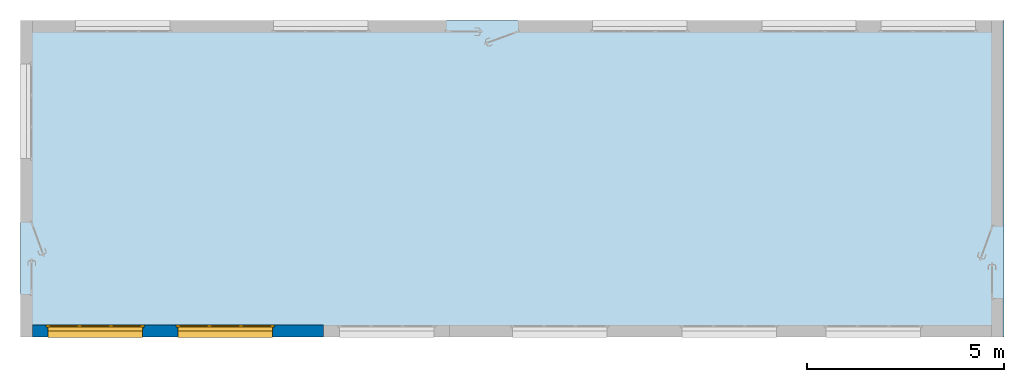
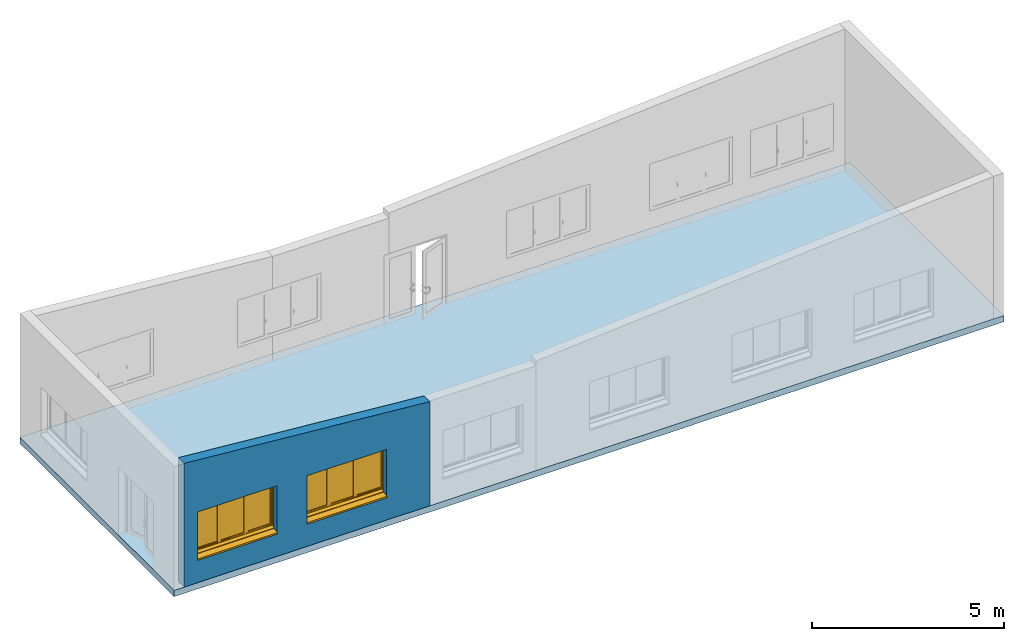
# One storey, part 1 of 8: 2 windows, 1 slab, 1 wall, 2 openings.
"""IFC2X3 building model written with IfcOpenShell, lengths in metres."""

from ifc_helpers import new_model, entity, si_unit, converted_unit, derived_unit, direction, frame, frame_2d, origin, place, context, subcontext, project, spatial, polyline, rectangle, outline, extrude, clip, bounded_halfspace, faceted_brep, source, transform, mapped, material, material_list, layer, layer_set, layer_usage, type_object, type_shapes, element, fill, save


model = new_model("IFC2X3")

# Units and contexts
model_context = context("Model", 3, precision=1e-05, world=origin(), true_north=direction((6.12303176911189e-17, 1.0)))
body_context = subcontext(model_context, "Body", "Model", "MODEL_VIEW")
ifc_project = project(units=[si_unit("LENGTHUNIT", "METRE"), si_unit("AREAUNIT", "SQUARE_METRE"), si_unit("VOLUMEUNIT", "CUBIC_METRE"), converted_unit("PLANEANGLEUNIT", "DEGREE", entity("IfcRatioMeasure", 0.0174532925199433), si_unit("PLANEANGLEUNIT", "RADIAN"), dimensions=[0, 0, 0, 0, 0, 0, 0]), si_unit("MASSUNIT", "GRAM", prefix="KILO"), derived_unit("MASSDENSITYUNIT", [(si_unit("MASSUNIT", "GRAM", prefix="KILO"), 1), (si_unit("LENGTHUNIT", "METRE"), -3)]), si_unit("TIMEUNIT", "SECOND"), si_unit("FREQUENCYUNIT", "HERTZ"), si_unit("THERMODYNAMICTEMPERATUREUNIT", "DEGREE_CELSIUS"), derived_unit("THERMALTRANSMITTANCEUNIT", [(si_unit("MASSUNIT", "GRAM", prefix="KILO"), 1), (si_unit("THERMODYNAMICTEMPERATUREUNIT", "KELVIN"), -1), (si_unit("TIMEUNIT", "SECOND"), -3)]), derived_unit("VOLUMETRICFLOWRATEUNIT", [(si_unit("LENGTHUNIT", "METRE"), 3), (si_unit("TIMEUNIT", "SECOND"), -1)]), si_unit("ELECTRICCURRENTUNIT", "AMPERE"), si_unit("ELECTRICVOLTAGEUNIT", "VOLT"), si_unit("POWERUNIT", "WATT"), si_unit("FORCEUNIT", "NEWTON", prefix="KILO"), si_unit("ILLUMINANCEUNIT", "LUX"), si_unit("LUMINOUSFLUXUNIT", "LUMEN"), si_unit("LUMINOUSINTENSITYUNIT", "CANDELA"), derived_unit("USERDEFINED", [(si_unit("MASSUNIT", "GRAM", prefix="KILO"), -1), (si_unit("LENGTHUNIT", "METRE"), -2), (si_unit("TIMEUNIT", "SECOND"), 3), (si_unit("LUMINOUSFLUXUNIT", "LUMEN"), 1)]), derived_unit("LINEARVELOCITYUNIT", [(si_unit("LENGTHUNIT", "METRE"), 1), (si_unit("TIMEUNIT", "SECOND"), -1)]), si_unit("PRESSUREUNIT", "PASCAL"), derived_unit("USERDEFINED", [(si_unit("LENGTHUNIT", "METRE"), -2), (si_unit("MASSUNIT", "GRAM", prefix="KILO"), 1), (si_unit("TIMEUNIT", "SECOND"), -2)])], contexts=[model_context])

# Site, building, storey
site_placement = place(None, origin())
site = spatial("IfcSite", under=ifc_project, at=site_placement, Name="Default", CompositionType="ELEMENT")
building_placement = place(site_placement, origin())
building = spatial("IfcBuilding", under=site, at=building_placement, CompositionType="ELEMENT")
storey_placement = place(building_placement, frame((0.0, 0.0, 3.3)))
storey = spatial("IfcBuildingStorey", under=building, at=storey_placement, Name="Niveau 1", CompositionType="ELEMENT", Elevation=3.3)

# Slab
ifc_material_1 = material(Name="Maçonnerie - Béton")
ifc_layer_1 = layer(ifc_material_1, 0.2)
ifc_layer_set_1 = layer_set([ifc_layer_1], Name="Sol:Dalle en béton - 200")
ifc_layer_usage_1 = layer_usage(ifc_layer_set_1, "AXIS3", "POSITIVE", 0.0)
slab_placement = place(storey_placement, origin())
element("IfcSlab", 1, at=slab_placement, inside=storey, material=ifc_layer_usage_1, Name="Sol:Dalle en béton - 200", ObjectType="Sol:Dalle en béton - 200", PredefinedType="FLOOR", context=body_context, shape_type="SweptSolid", body=[
    extrude(outline(polyline([(-2.68166666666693, -13.5496519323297), (5.35833333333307, -13.5496519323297), (5.35833333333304, 11.4347994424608), (-2.67666666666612, 11.4347994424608), (-2.67666666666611, 2.11485248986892), (-2.68166666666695, 2.11485248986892), (-2.68166666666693, -13.5496519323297)])), frame((1.16568614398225, -2.34921474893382, 0.0), z_axis=(0.0, 0.0, -1.0), x_axis=(0.0, 1.0, 0.0)), (0.0, 0.0, 1.0), 0.2),
])

# Wall, openings, windows
ifc_material_2 = material(Name="Maçonnerie - Voile BA")
ifc_layer_2 = layer(ifc_material_2, 0.18)
ifc_material_3 = material(Name="Maçonnerie - Isolant")
ifc_layer_3 = layer(ifc_material_3, 0.12)
ifc_layer_set_2 = layer_set([ifc_layer_2, ifc_layer_3], Name="Mur de base:Ext. Voile BA 18 + Isolant 12")
ifc_layer_usage_2 = layer_usage(ifc_layer_set_2, "AXIS2", "NEGATIVE", 0.15)
wall_type = type_object("IfcWallType", Name="Mur de base:Ext. Voile BA 18 + Isolant 12", PredefinedType="STANDARD", material=ifc_layer_set_2)
wall_placement = place(storey_placement, frame((-4.68534366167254, -4.88088141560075, 0.0), z_axis=(0.0, 0.0, 1.0), x_axis=(-1.0, 0.0, 0.0)))
wall = element("IfcWallStandardCase", 2, at=wall_placement, inside=storey, type_object=wall_type, material=ifc_layer_usage_2, Name="Mur de base:Ext. Voile BA 18 + Isolant 12", ObjectType="Mur de base:Ext. Voile BA 18 + Isolant 12", context=body_context, shape_type="Clipping", body=[
    clip(extrude(rectangle(XDim=7.39862212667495, YDim=0.299999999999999, at=frame_2d((3.69931106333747, 1.2490009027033e-16), x_axis=(-1.0, 0.0))), origin(), (0.0, 0.0, 1.0), 3.94), bounded_halfspace(frame((0.0, -0.15, 3.31535994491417), z_axis=(-0.084127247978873, 0.0, 0.996455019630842), x_axis=(0.996455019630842, 0.0, 0.084127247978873)), False, frame((0.0, -0.15, 3.31535994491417)), polyline([(0.0, 0.0), (0.1734058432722, 0.0), (7.39862212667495, 0.0), (7.39862212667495, 0.299999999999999), (0.0, 0.299999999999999), (0.0, 0.00269999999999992), (0.0, 0.0)]))),
])
opening_1_placement = place(wall_placement, frame((7.04862212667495, 0.499999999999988, 0.720000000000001), z_axis=(0.0, 0.0, 1.0), x_axis=(-1.0, 0.0, 0.0)))
opening_1 = element("IfcOpeningElement", 3, at=opening_1_placement, cuts=wall, Name="Mur de base:Ext. Voile BA 18 + Isolant 12", ObjectType="Opening", context=body_context, shape_type="Brep", body=[
    faceted_brep([(2.45, 0.57000000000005, 0.0800000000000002), (2.45, 0.549999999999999, 0.0800000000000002), (2.45, 0.549999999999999, 1.53), (2.45, 0.0, 1.53), (2.45, 0.0, 0.0), (2.45, 0.57000000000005, 0.0), (0.0500000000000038, 1.0, 0.0800000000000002), (0.0500000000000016, 0.650000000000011, 0.0800000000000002), (0.0500000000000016, 0.650000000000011, 1.53), (0.0500000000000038, 1.0, 1.53), (2.45, 1.0, 0.0800000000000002), (2.45, 0.650000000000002, 0.0800000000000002), (2.5, 0.650000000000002, 0.0800000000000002), (2.5, 0.600000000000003, 0.0800000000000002), (2.46, 0.600000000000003, 0.0800000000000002), (2.46, 0.549999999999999, 0.0800000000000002), (0.0500000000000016, 0.570000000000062, 0.0800000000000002), (0.0500000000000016, 0.550000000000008, 0.0800000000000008), (0.0399999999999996, 0.550000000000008, 0.0800000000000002), (0.0399999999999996, 0.600000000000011, 0.0800000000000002), (0.0, 0.600000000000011, 0.0800000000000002), (0.0, 0.65000000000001, 0.0800000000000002), (2.45, 1.0, 1.53), (0.0500000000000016, 0.550000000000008, 1.53), (0.0499999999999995, 0.0, 1.53), (0.0499999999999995, 0.0, 0.0), (0.0500000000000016, 0.570000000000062, 0.0), (2.5, 0.650000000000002, 1.58), (2.5, 0.600000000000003, 1.58), (0.0, 0.600000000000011, 1.58), (0.0399999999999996, 0.600000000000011, 1.54), (2.46, 0.600000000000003, 1.54), (2.46, 0.549999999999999, 1.54), (0.0399999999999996, 0.550000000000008, 1.54), (2.45, 0.650000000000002, 1.53), (0.0, 0.650000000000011, 1.58)], [[[0, 1, 2, 3, 4, 5]], [[6, 7, 8, 9]], [[10, 11, 12, 13, 14, 15, 1, 0, 16, 17, 18, 19, 20, 21, 7, 6]], [[10, 6, 9, 22]], [[3, 2, 23, 24]], [[3, 24, 25, 4]], [[4, 25, 26, 5]], [[5, 26, 16, 0]], [[12, 27, 28, 13]], [[13, 28, 29, 20, 19, 30, 31, 14]], [[14, 31, 32, 15]], [[15, 32, 33, 18, 17, 23, 2, 1]], [[11, 34, 8, 7, 21, 35, 27, 12]], [[27, 35, 29, 28]], [[30, 33, 32, 31]], [[29, 35, 21, 20]], [[19, 18, 33, 30]], [[9, 8, 34, 22]], [[24, 23, 17, 16, 26, 25]], [[22, 34, 11, 10]]]),
])
opening_2_placement = place(wall_placement, frame((3.75, 0.499999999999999, 0.720000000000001), z_axis=(0.0, 0.0, 1.0), x_axis=(-1.0, 0.0, 0.0)))
opening_2 = element("IfcOpeningElement", 4, at=opening_2_placement, cuts=wall, Name="Mur de base:Ext. Voile BA 18 + Isolant 12", ObjectType="Opening", context=body_context, shape_type="Brep", body=[
    faceted_brep([(2.45, 0.57000000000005, 0.0800000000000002), (2.45, 0.549999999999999, 0.0800000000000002), (2.45, 0.549999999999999, 1.53), (2.45, 0.0, 1.53), (2.45, 0.0, 0.0), (2.45, 0.57000000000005, 0.0), (0.0500000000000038, 1.0, 0.0800000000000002), (0.0500000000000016, 0.650000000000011, 0.0800000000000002), (0.0500000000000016, 0.650000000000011, 1.53), (0.0500000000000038, 1.0, 1.53), (2.45, 1.0, 0.0800000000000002), (2.45, 0.650000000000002, 0.0800000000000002), (2.5, 0.650000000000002, 0.0800000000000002), (2.5, 0.600000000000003, 0.0800000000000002), (2.46, 0.600000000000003, 0.0800000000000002), (2.46, 0.549999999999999, 0.0800000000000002), (0.0500000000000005, 0.570000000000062, 0.0800000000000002), (0.0500000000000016, 0.550000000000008, 0.0800000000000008), (0.0399999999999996, 0.550000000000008, 0.0800000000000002), (0.0399999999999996, 0.600000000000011, 0.0800000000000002), (0.0, 0.600000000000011, 0.0800000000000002), (0.0, 0.65000000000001, 0.0800000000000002), (2.45, 1.0, 1.53), (0.0500000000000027, 0.550000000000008, 1.53), (0.0499999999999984, 0.0, 1.53), (0.0499999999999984, 0.0, 0.0), (0.0500000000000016, 0.570000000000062, 0.0), (2.5, 0.650000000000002, 1.58), (2.5, 0.600000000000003, 1.58), (0.0, 0.600000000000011, 1.58), (0.0400000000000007, 0.600000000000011, 1.54), (2.46, 0.600000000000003, 1.54), (2.46, 0.549999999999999, 1.54), (0.0399999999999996, 0.550000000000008, 1.54), (2.45, 0.650000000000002, 1.53), (0.0, 0.650000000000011, 1.58)], [[[0, 1, 2, 3, 4, 5]], [[6, 7, 8, 9]], [[10, 11, 12, 13, 14, 15, 1, 0, 16, 17, 18, 19, 20, 21, 7, 6]], [[10, 6, 9, 22]], [[3, 2, 23, 24]], [[3, 24, 25, 4]], [[4, 25, 26, 5]], [[5, 26, 16, 0]], [[12, 27, 28, 13]], [[13, 28, 29, 20, 19, 30, 31, 14]], [[14, 31, 32, 15]], [[15, 32, 33, 18, 17, 23, 2, 1]], [[11, 34, 8, 7, 21, 35, 27, 12]], [[27, 35, 29, 28]], [[30, 33, 32, 31]], [[29, 35, 21, 20]], [[19, 18, 33, 30]], [[9, 8, 34, 22]], [[24, 23, 17, 16, 26, 25]], [[22, 34, 11, 10]]]),
])
ifc_material_4 = material(Name="Fenêtre - Poignée")
ifc_material_5 = material(Name="Fenêtre - Appui")
ifc_material_6 = material(Name="Fenêtre - Cadre")
ifc_material_7 = material(Name="Fenêtre - Vitrage")
ifc_material_list_1 = material_list([ifc_material_4, ifc_material_5, ifc_material_6, ifc_material_7])
ifc_material_list_2 = material_list([ifc_material_4, ifc_material_5, ifc_material_6, ifc_material_7])
window_style = type_object("IfcWindowStyle", Name="2.40m x 1.45m - Appui Béton", ConstructionType="NOTDEFINED", OperationType="TRIPLE_PANEL_VERTICAL", ParameterTakesPrecedence=False, Sizeable=False, material=ifc_material_list_2)
shared_shape = source(origin(), body_context, "Body", "Brep", [
    faceted_brep([(0.83064600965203, -0.656000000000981, 0.702033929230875), (0.83203392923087, -0.656000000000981, 0.700646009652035), (0.83203392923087, -0.656000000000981, 0.68933230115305), (0.830667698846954, -0.656000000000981, 0.687966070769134), (0.819332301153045, -0.656000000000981, 0.687966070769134), (0.817966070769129, -0.656000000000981, 0.68933230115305), (0.817966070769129, -0.656000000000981, 0.700646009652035), (0.819353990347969, -0.656000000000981, 0.702033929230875), (0.83064600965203, -0.66891354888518, 0.702033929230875), (0.83203392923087, -0.668338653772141, 0.700646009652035), (0.83203392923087, -0.681646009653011, 0.687338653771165), (0.83203392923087, -0.681646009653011, 0.600000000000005), (0.83203392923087, -0.670332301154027, 0.600000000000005), (0.83203392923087, -0.670332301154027, 0.68265236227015), (0.83203392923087, -0.663652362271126, 0.68933230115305), (0.830667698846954, -0.663086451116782, 0.687966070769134), (0.819332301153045, -0.663086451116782, 0.687966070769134), (0.817966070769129, -0.663652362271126, 0.68933230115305), (0.817966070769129, -0.670332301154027, 0.68265236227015), (0.817966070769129, -0.670332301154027, 0.600000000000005), (0.817966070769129, -0.681646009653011, 0.600000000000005), (0.817966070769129, -0.681646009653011, 0.687338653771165), (0.817966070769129, -0.668338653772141, 0.700646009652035), (0.81935399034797, -0.66891354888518, 0.702033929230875), (0.83064600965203, -0.683033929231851, 0.687913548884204), (0.830667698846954, -0.668966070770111, 0.682086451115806), (0.819332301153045, -0.668966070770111, 0.682086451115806), (0.819353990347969, -0.683033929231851, 0.687913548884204), (0.83064600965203, -0.683033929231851, 0.600000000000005), (0.819353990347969, -0.683033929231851, 0.600000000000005), (0.819332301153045, -0.668966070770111, 0.600000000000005), (0.830667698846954, -0.668966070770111, 0.600000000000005)], [[[0, 1, 2, 3, 4, 5, 6, 7]], [[1, 0, 8, 9]], [[2, 1, 9, 10, 11, 12, 13, 14]], [[3, 2, 14, 15]], [[4, 3, 15, 16]], [[5, 4, 16, 17]], [[6, 5, 17, 18, 19, 20, 21, 22]], [[7, 6, 22, 23]], [[0, 7, 23, 8]], [[9, 8, 24, 10]], [[15, 14, 13, 25]], [[16, 15, 25, 26]], [[17, 16, 26, 18]], [[23, 22, 21, 27]], [[8, 23, 27, 24]], [[28, 29, 20, 19, 30, 31, 12, 11]], [[10, 24, 28, 11]], [[25, 13, 12, 31]], [[26, 25, 31, 30]], [[18, 26, 30, 19]], [[27, 21, 20, 29]], [[24, 27, 29, 28]]]),
    faceted_brep([(0.832000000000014, -0.656000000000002, 0.720000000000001), (0.817999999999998, -0.656000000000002, 0.720000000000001), (0.812999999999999, -0.656000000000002, 0.715000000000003), (0.812999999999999, -0.656000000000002, 0.644999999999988), (0.817999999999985, -0.656000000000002, 0.640000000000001), (0.832000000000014, -0.656000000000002, 0.640000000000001), (0.837, -0.656000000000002, 0.644999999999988), (0.837, -0.656000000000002, 0.715000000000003), (0.832000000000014, -0.650000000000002, 0.720000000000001), (0.837, -0.650000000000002, 0.715000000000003), (0.837, -0.650000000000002, 0.644999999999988), (0.832000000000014, -0.650000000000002, 0.640000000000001), (0.817999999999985, -0.650000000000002, 0.640000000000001), (0.812999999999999, -0.650000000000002, 0.644999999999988), (0.812999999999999, -0.650000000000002, 0.715000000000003), (0.817999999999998, -0.650000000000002, 0.720000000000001)], [[[0, 1, 2, 3, 4, 5, 6, 7]], [[8, 9, 10, 11, 12, 13, 14, 15]], [[1, 0, 8, 15]], [[2, 1, 15, 14]], [[3, 2, 14, 13]], [[4, 3, 13, 12]], [[5, 4, 12, 11]], [[6, 5, 11, 10]], [[7, 6, 10, 9]], [[0, 7, 9, 8]]]),
    faceted_brep([(1.68064600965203, -0.656000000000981, 0.702033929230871), (1.68203392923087, -0.656000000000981, 0.700646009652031), (1.68203392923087, -0.656000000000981, 0.689332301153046), (1.68066769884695, -0.656000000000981, 0.68796607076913), (1.66933230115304, -0.656000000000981, 0.68796607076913), (1.66796607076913, -0.656000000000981, 0.689332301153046), (1.66796607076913, -0.656000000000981, 0.700646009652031), (1.66935399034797, -0.656000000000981, 0.702033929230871), (1.68064600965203, -0.66891354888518, 0.702033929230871), (1.68203392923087, -0.668338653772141, 0.700646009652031), (1.68203392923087, -0.681646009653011, 0.687338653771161), (1.68203392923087, -0.681646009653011, 0.600000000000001), (1.68203392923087, -0.670332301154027, 0.600000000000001), (1.68203392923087, -0.670332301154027, 0.682652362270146), (1.68203392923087, -0.663652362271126, 0.689332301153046), (1.68066769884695, -0.663086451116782, 0.68796607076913), (1.66933230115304, -0.663086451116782, 0.68796607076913), (1.66796607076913, -0.663652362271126, 0.689332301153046), (1.66796607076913, -0.670332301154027, 0.682652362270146), (1.66796607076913, -0.670332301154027, 0.600000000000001), (1.66796607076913, -0.681646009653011, 0.600000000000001), (1.66796607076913, -0.681646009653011, 0.687338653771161), (1.66796607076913, -0.668338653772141, 0.700646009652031), (1.66935399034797, -0.66891354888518, 0.702033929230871), (1.68064600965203, -0.683033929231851, 0.6879135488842), (1.68066769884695, -0.668966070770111, 0.682086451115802), (1.66933230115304, -0.668966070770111, 0.682086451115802), (1.66935399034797, -0.683033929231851, 0.6879135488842), (1.68064600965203, -0.683033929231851, 0.600000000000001), (1.66935399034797, -0.683033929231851, 0.600000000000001), (1.66933230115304, -0.668966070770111, 0.600000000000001), (1.68066769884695, -0.668966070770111, 0.600000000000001)], [[[0, 1, 2, 3, 4, 5, 6, 7]], [[1, 0, 8, 9]], [[2, 1, 9, 10, 11, 12, 13, 14]], [[3, 2, 14, 15]], [[4, 3, 15, 16]], [[5, 4, 16, 17]], [[6, 5, 17, 18, 19, 20, 21, 22]], [[7, 6, 22, 23]], [[0, 7, 23, 8]], [[9, 8, 24, 10]], [[15, 14, 13, 25]], [[16, 15, 25, 26]], [[17, 16, 26, 18]], [[23, 22, 21, 27]], [[8, 23, 27, 24]], [[28, 29, 20, 19, 30, 31, 12, 11]], [[10, 24, 28, 11]], [[25, 13, 12, 31]], [[26, 25, 31, 30]], [[18, 26, 30, 19]], [[27, 21, 20, 29]], [[24, 27, 29, 28]]]),
    faceted_brep([(1.68200000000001, -0.656000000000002, 0.719999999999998), (1.668, -0.656000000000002, 0.719999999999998), (1.663, -0.656000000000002, 0.714999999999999), (1.663, -0.656000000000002, 0.644999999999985), (1.66799999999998, -0.656000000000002, 0.639999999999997), (1.68200000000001, -0.656000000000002, 0.639999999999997), (1.687, -0.656000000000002, 0.644999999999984), (1.687, -0.656000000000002, 0.714999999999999), (1.68200000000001, -0.650000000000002, 0.719999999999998), (1.687, -0.650000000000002, 0.714999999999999), (1.687, -0.650000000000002, 0.644999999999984), (1.68200000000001, -0.650000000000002, 0.639999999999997), (1.66799999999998, -0.650000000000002, 0.639999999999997), (1.663, -0.650000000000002, 0.644999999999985), (1.663, -0.650000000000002, 0.714999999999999), (1.668, -0.650000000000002, 0.719999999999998)], [[[0, 1, 2, 3, 4, 5, 6, 7]], [[8, 9, 10, 11, 12, 13, 14, 15]], [[1, 0, 8, 15]], [[2, 1, 15, 14]], [[3, 2, 14, 13]], [[4, 3, 13, 12]], [[5, 4, 12, 11]], [[6, 5, 11, 10]], [[7, 6, 10, 9]], [[0, 7, 9, 8]]]),
    faceted_brep([(0.050000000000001, -0.569999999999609, 0.0799999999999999), (0.0500000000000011, -0.519999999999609, 0.0799999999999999), (0.0500000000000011, -0.519999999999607, 0.0650000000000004), (0.0500000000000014, -0.334999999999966, 0.0455557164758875), (0.0500000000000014, -0.334999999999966, 0.0), (0.050000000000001, -0.569999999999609, 0.0), (2.45, -0.569999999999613, 0.0799999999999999), (2.45, -0.569999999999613, 0.0), (2.45, -0.33499999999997, 0.0), (2.45, -0.33499999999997, 0.0455557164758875), (2.45, -0.519999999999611, 0.0650000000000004), (2.45, -0.519999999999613, 0.0799999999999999)], [[[0, 1, 2, 3, 4, 5]], [[6, 7, 8, 9, 10, 11]], [[1, 0, 6, 11]], [[2, 1, 11, 10]], [[3, 2, 10, 9]], [[4, 3, 9, 8]], [[5, 4, 8, 7]], [[0, 5, 7, 6]]]),
    faceted_brep([(1.65, -0.610000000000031, 1.53), (1.65, -0.650000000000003, 1.53), (1.65, -0.650000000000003, 0.13), (1.65, -0.610000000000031, 0.13), (0.849999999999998, -0.65, 0.13), (0.849999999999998, -0.610000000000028, 0.13), (0.849999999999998, -0.65, 1.53), (0.899999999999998, -0.65, 0.18), (0.899999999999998, -0.65, 1.48), (1.6, -0.650000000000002, 1.48), (1.6, -0.650000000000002, 0.18), (0.849999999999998, -0.610000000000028, 1.53), (1.6, -0.61000000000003, 0.179999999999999), (1.6, -0.61000000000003, 1.48), (0.899999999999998, -0.610000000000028, 1.48), (0.899999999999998, -0.610000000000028, 0.18)], [[[0, 1, 2, 3]], [[3, 2, 4, 5]], [[2, 1, 6, 4], [7, 8, 9, 10]], [[5, 4, 6, 11]], [[5, 11, 0, 3], [12, 13, 14, 15]], [[9, 13, 12, 10]], [[10, 12, 15, 7]], [[7, 15, 14, 8]], [[11, 6, 1, 0]], [[8, 14, 13, 9]]]),
    faceted_brep([(0.849999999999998, -0.610000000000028, 1.53), (0.849999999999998, -0.650000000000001, 1.53), (0.849999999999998, -0.650000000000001, 0.13), (0.849999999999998, -0.610000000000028, 0.13), (0.0499999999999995, -0.649999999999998, 0.13), (0.0499999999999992, -0.610000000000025, 0.13), (0.0499999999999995, -0.649999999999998, 1.53), (0.0999999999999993, -0.649999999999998, 0.18), (0.0999999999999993, -0.649999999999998, 1.48), (0.799999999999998, -0.650000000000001, 1.48), (0.799999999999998, -0.650000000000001, 0.18), (0.0499999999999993, -0.610000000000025, 1.53), (0.799999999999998, -0.610000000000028, 0.18), (0.799999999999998, -0.610000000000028, 1.48), (0.0999999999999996, -0.610000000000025, 1.48), (0.0999999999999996, -0.610000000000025, 0.18)], [[[0, 1, 2, 3]], [[3, 2, 4, 5]], [[2, 1, 6, 4], [7, 8, 9, 10]], [[5, 4, 6, 11]], [[5, 11, 0, 3], [12, 13, 14, 15]], [[9, 13, 12, 10]], [[10, 12, 15, 7]], [[7, 15, 14, 8]], [[11, 6, 1, 0]], [[8, 14, 13, 9]]]),
    faceted_brep([(1.7, -0.624000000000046, 0.18), (1.7, -0.624000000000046, 1.48), (2.4, -0.624000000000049, 1.48), (2.4, -0.624000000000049, 0.18), (1.7, -0.636000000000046, 0.18), (1.7, -0.636000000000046, 1.48), (2.4, -0.636000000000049, 1.48), (2.4, -0.636000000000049, 0.18)], [[[0, 1, 2, 3]], [[1, 0, 4, 5]], [[3, 2, 6, 7]], [[0, 3, 7, 4]], [[2, 1, 5, 6]], [[4, 7, 6, 5]]]),
    faceted_brep([(0.799999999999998, -0.624000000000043, 0.18), (0.799999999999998, -0.624000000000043, 1.48), (0.799999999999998, -0.636000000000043, 1.48), (0.799999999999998, -0.636000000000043, 0.18), (0.0999999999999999, -0.624000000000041, 0.18), (0.0999999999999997, -0.636000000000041, 0.18), (0.0999999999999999, -0.624000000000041, 1.48), (0.0999999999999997, -0.636000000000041, 1.48)], [[[0, 1, 2, 3]], [[4, 0, 3, 5]], [[6, 4, 5, 7]], [[7, 5, 3, 2]], [[1, 6, 7, 2]], [[6, 1, 0, 4]]]),
    faceted_brep([(1.6, -0.624000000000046, 0.18), (1.6, -0.624000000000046, 1.48), (1.6, -0.636000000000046, 1.48), (1.6, -0.636000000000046, 0.18), (0.899999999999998, -0.624000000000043, 0.18), (0.899999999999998, -0.636000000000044, 0.18), (0.899999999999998, -0.624000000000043, 1.48), (0.899999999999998, -0.636000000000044, 1.48)], [[[0, 1, 2, 3]], [[4, 0, 3, 5]], [[6, 4, 5, 7]], [[1, 6, 7, 2]], [[7, 5, 3, 2]], [[6, 1, 0, 4]]]),
    faceted_brep([(1.7, -0.610000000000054, 1.48), (1.7, -0.650000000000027, 1.48), (1.7, -0.650000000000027, 0.18), (1.7, -0.610000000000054, 0.18), (2.4, -0.650000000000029, 0.18), (2.4, -0.610000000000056, 0.18), (2.4, -0.650000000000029, 1.48), (2.45, -0.65000000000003, 0.13), (2.45, -0.65000000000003, 1.53), (1.65, -0.650000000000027, 1.53), (1.65, -0.650000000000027, 0.13), (2.4, -0.610000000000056, 1.48), (1.65, -0.610000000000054, 0.13), (1.65, -0.610000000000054, 1.53), (2.45, -0.610000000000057, 1.53), (2.45, -0.610000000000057, 0.13)], [[[0, 1, 2, 3]], [[3, 2, 4, 5]], [[2, 1, 6, 4], [7, 8, 9, 10]], [[5, 4, 6, 11]], [[5, 11, 0, 3], [12, 13, 14, 15]], [[9, 13, 12, 10]], [[10, 12, 15, 7]], [[7, 15, 14, 8]], [[11, 6, 1, 0]], [[8, 14, 13, 9]]], outer=[[True], [True], [False, True], [True], [False, True], [True], [True], [True], [True], [True]]),
    faceted_brep([(0.0, -0.650000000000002, 0.0799999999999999), (0.0, -0.600000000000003, 0.0799999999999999), (0.0499999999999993, -0.600000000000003, 0.0799999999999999), (0.0499999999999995, -0.51500000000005, 0.0800000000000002), (2.45, -0.515000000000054, 0.0799999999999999), (2.45, -0.600000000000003, 0.0800000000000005), (2.5, -0.600000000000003, 0.0799999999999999), (2.5, -0.650000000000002, 0.0799999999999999), (0.0, -0.650000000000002, 1.58), (0.0, -0.600000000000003, 1.58), (2.5, -0.600000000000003, 1.58), (2.45, -0.600000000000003, 0.119376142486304), (0.0499999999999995, -0.600000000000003, 0.119376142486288), (0.0649999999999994, -0.600000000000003, 1.515), (0.0649999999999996, -0.600000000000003, 0.145), (2.435, -0.600000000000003, 0.145), (2.435, -0.600000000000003, 1.515), (0.0499999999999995, -0.50500000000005, 0.0939209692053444), (0.0499999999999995, -0.50500000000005, 0.0749999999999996), (0.0499999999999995, -0.51500000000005, 0.0749999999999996), (2.45, -0.515000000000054, 0.0749999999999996), (2.45, -0.505000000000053, 0.0749999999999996), (2.45, -0.505000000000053, 0.0939209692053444), (2.5, -0.650000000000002, 1.58), (2.45, -0.650000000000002, 1.53), (2.45, -0.650000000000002, 0.13), (0.0499999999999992, -0.65, 0.13), (0.0499999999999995, -0.650000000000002, 1.53), (0.0649999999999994, -0.610000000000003, 1.515), (0.0649999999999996, -0.610000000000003, 0.145), (2.435, -0.610000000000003, 0.145), (2.435, -0.610000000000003, 1.515), (2.45, -0.610000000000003, 1.53), (0.0499999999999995, -0.610000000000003, 1.53), (0.0499999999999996, -0.610000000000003, 0.13), (2.45, -0.610000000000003, 0.13)], [[[0, 1, 2, 3, 4, 5, 6, 7]], [[1, 0, 8, 9]], [[1, 9, 10, 6, 5, 11, 12, 2], [13, 14, 15, 16]], [[12, 17, 18, 19, 3, 2]], [[3, 19, 20, 4]], [[4, 20, 21, 22, 11, 5]], [[6, 10, 23, 7]], [[0, 7, 23, 8], [24, 25, 26, 27]], [[13, 28, 29, 14]], [[29, 30, 15, 14]], [[31, 16, 15, 30]], [[17, 12, 11, 22]], [[32, 33, 34, 35], [28, 31, 30, 29]], [[34, 33, 27, 26]], [[26, 25, 35, 34]], [[24, 32, 35, 25]], [[18, 17, 22, 21]], [[19, 18, 21, 20]], [[13, 16, 31, 28]], [[33, 32, 24, 27]], [[10, 9, 8, 23]]]),
    faceted_brep([(0.0499999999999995, -0.550000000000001, 0.0799999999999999), (0.0499999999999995, -0.600000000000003, 0.0799999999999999), (0.039999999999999, -0.600000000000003, 0.0799999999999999), (0.039999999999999, -0.550000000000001, 0.0799999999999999), (0.0499999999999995, -0.550000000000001, 1.53), (0.0499999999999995, -0.600000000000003, 1.53), (2.45, -0.600000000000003, 1.53), (2.45, -0.600000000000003, 0.0799999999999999), (2.46, -0.600000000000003, 0.0800000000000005), (2.46, -0.600000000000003, 1.54), (0.039999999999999, -0.600000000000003, 1.54), (0.039999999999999, -0.550000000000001, 1.54), (2.46, -0.550000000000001, 1.54), (2.46, -0.550000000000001, 0.0799999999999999), (2.45, -0.550000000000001, 0.0800000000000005), (2.45, -0.550000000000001, 1.53)], [[[0, 1, 2, 3]], [[1, 0, 4, 5]], [[2, 1, 5, 6, 7, 8, 9, 10]], [[3, 2, 10, 11]], [[0, 3, 11, 12, 13, 14, 15, 4]], [[6, 15, 14, 7]], [[14, 13, 8, 7]], [[12, 9, 8, 13]], [[5, 4, 15, 6]], [[11, 10, 9, 12]]]),
    faceted_brep([(1.67, -0.602000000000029, 1.515), (1.63, -0.602000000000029, 1.515), (1.63, -0.610000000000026, 1.515), (1.67, -0.610000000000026, 1.515), (1.67, -0.602000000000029, 0.145), (1.63, -0.602000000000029, 0.145), (1.63, -0.610000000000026, 0.145), (1.67, -0.610000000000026, 0.145)], [[[0, 1, 2, 3]], [[1, 0, 4, 5]], [[2, 1, 5, 6]], [[3, 2, 6, 7]], [[0, 3, 7, 4]], [[4, 7, 6, 5]]]),
    faceted_brep([(0.870000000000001, -0.602000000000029, 0.145), (0.870000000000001, -0.610000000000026, 0.145), (0.83, -0.610000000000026, 0.145), (0.83, -0.602000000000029, 0.145), (0.83, -0.602000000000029, 1.515), (0.870000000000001, -0.602000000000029, 1.515), (0.83, -0.610000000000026, 1.515), (0.870000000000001, -0.610000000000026, 1.515)], [[[0, 1, 2, 3]], [[4, 5, 0, 3]], [[6, 4, 3, 2]], [[7, 6, 2, 1]], [[5, 7, 1, 0]], [[5, 4, 6, 7]]]),
])
type_shapes(window_style, [shared_shape])
window_1_placement = place(opening_1_placement, frame((2.5, 0.0, 0.0), z_axis=(0.0, 0.0, 1.0), x_axis=(-1.0, 0.0, 0.0)))
window_1 = element("IfcWindow", 5, at=window_1_placement, inside=storey, type_object=window_style, material=ifc_material_list_1, Name="3 Vantaux - Droits:2.40m x 1.45m - Appui Béton", ObjectType="2.40m x 1.45m - Appui Béton", OverallHeight=1.58, OverallWidth=2.5, context=body_context, shape_type="MappedRepresentation", body=[
    mapped(shared_shape, transform((0.0, 0.0, 0.0), scale=1.0)),
])
fill(opening_1, window_1)
ifc_material_list_3 = material_list([ifc_material_4, ifc_material_5, ifc_material_6, ifc_material_7])
window_2_placement = place(opening_2_placement, frame((2.5, 0.0, 0.0), z_axis=(0.0, 0.0, 1.0), x_axis=(-1.0, 0.0, 0.0)))
window_2 = element("IfcWindow", 6, at=window_2_placement, inside=storey, type_object=window_style, material=ifc_material_list_3, Name="3 Vantaux - Droits:2.40m x 1.45m - Appui Béton", ObjectType="2.40m x 1.45m - Appui Béton", OverallHeight=1.58, OverallWidth=2.5, context=body_context, shape_type="MappedRepresentation", body=[
    mapped(shared_shape, transform((0.0, 0.0, 0.0), scale=1.0)),
])
fill(opening_2, window_2)

save(model, "model.ifc")
